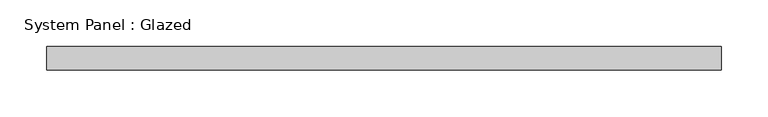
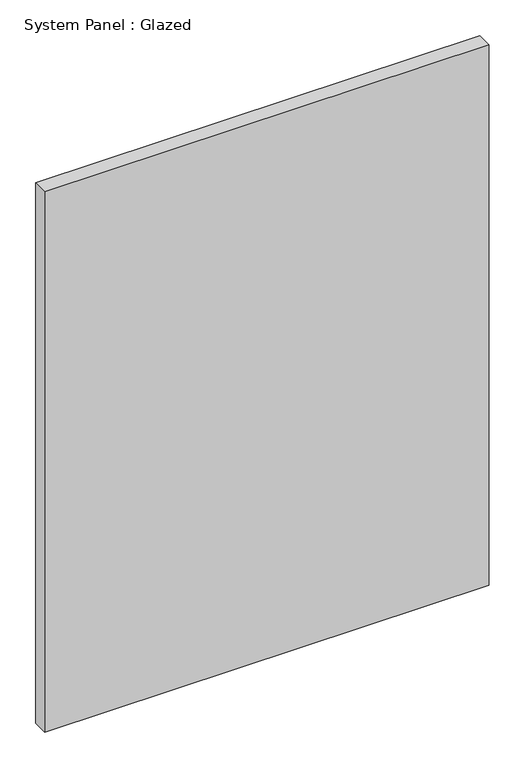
"""IFC4 building model written with IfcOpenShell, lengths in millimetres: plate geometry, System Panel : Glazed."""

from ifc_helpers import new_model, si_unit, origin, origin_with_axes, place, context, project, spatial, polyline, outline, extrude, source, transform, mapped, element, save


def system_panel_glazed_14a8cdc4(model_context):
    return source(origin(), model_context, "Body", "SweptSolid", [
        extrude(outline(polyline([(360.0, 24.5), (-360.0, 24.5), (-360.0, 49.5), (360.0, 49.5), (360.0, 24.5)])), origin_with_axes(), (0.0, 0.0, 1.0), 925.0),
    ])


if __name__ == "__main__":
    model = new_model("IFC4")
    model_context = context("Model", 3, world=origin())
    ifc_project = project(units=[si_unit("LENGTHUNIT", "METRE", prefix="MILLI")], contexts=[model_context])
    site = spatial("IfcSite", under=ifc_project)
    building = spatial("IfcBuilding", under=site)
    placement = place(None, origin())
    system_panel_glazed_shape = system_panel_glazed_14a8cdc4(model_context)
    element("IfcPlate", 1, ObjectType="System Panel : Glazed", at=placement, inside=building, context=model_context, shape_type="MappedRepresentation", body=[
        mapped(system_panel_glazed_shape, transform((0.0, 0.0, 0.0), x_axis=(1.0, 0.0, 0.0), y_axis=(0.0, 1.0, 0.0), z_axis=(0.0, 0.0, 1.0))),
    ])
    save(model, "model.ifc")
